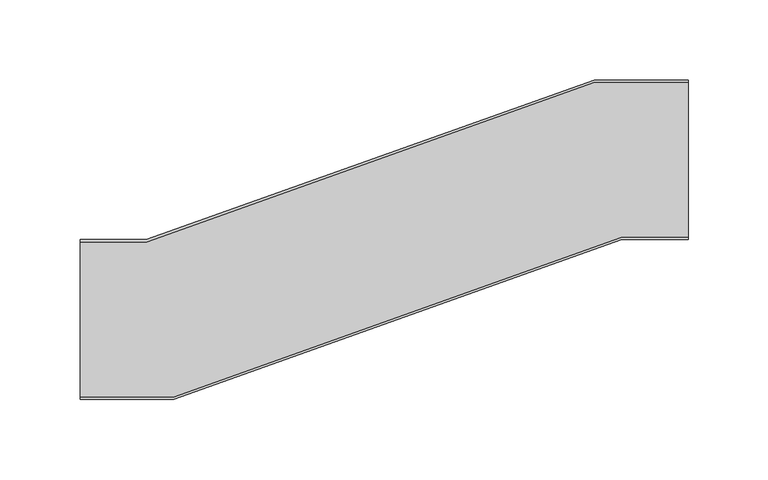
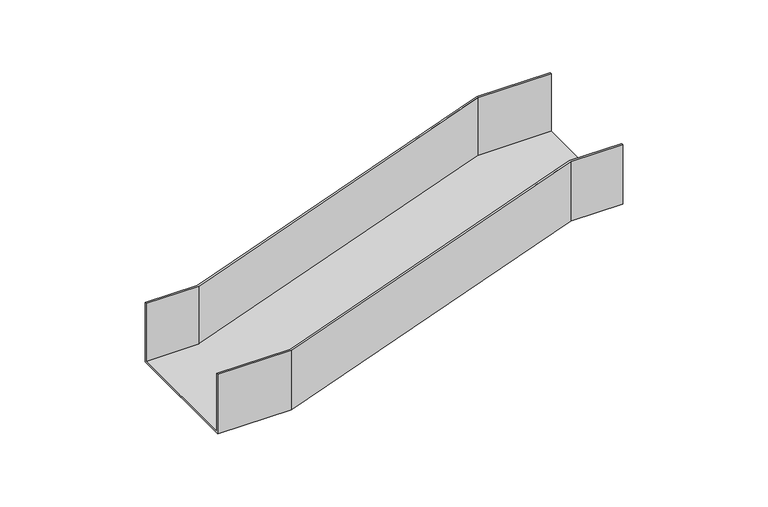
"""IFC4 building model written with IfcOpenShell, lengths in millimetres: cable carrier fitting geometry, BAKS_Bypass_horizontal_left_OPZL : OPZLPH50."""

from ifc_helpers import new_model, si_unit, origin, place, context, project, spatial, faceted_brep, source, transform, mapped, element, save


def cable_carrier_fitting_3d14474d(model_context):
    return source(origin(), model_context, "Body", "Brep", [
        faceted_brep([(-190.0, -1.5, 1.5), (-190.0, -1.5, 50.0), (-190.0, 0.0, 50.0), (-190.0, 0.0, 0.0), (-190.0, -100.0, 0.0), (-190.0, -100.0, 50.0), (-190.0, -98.5, 50.0), (-190.0, -98.5, 1.5), (-148.4008668, -1.5, 1.5), (-148.4008668, -1.5, 50.0), (131.5991332, 98.5, 50.0), (190.0, 98.5, 50.0), (190.0, 100.0, 50.0), (131.3393125, 100.0, 50.0), (-148.6606875, 0.0, 50.0), (-148.6606875, 0.0, 0.0), (131.3393125, 100.0, 0.0), (190.0, 100.0, 0.0), (190.0, 0.0, 0.0), (148.6606875, 0.0, 0.0), (-131.3393125, -100.0, 0.0), (-131.3393125, -100.0, 50.0), (148.6606875, 0.0, 50.0), (190.0, 0.0, 50.0), (190.0, 1.5, 50.0), (148.4008668, 1.5, 50.0), (-131.5991332, -98.5, 50.0), (-131.5991332, -98.5, 1.5), (148.4008668, 1.5, 1.5), (190.0, 1.5, 1.5), (190.0, 98.5, 1.5), (131.5991332, 98.5, 1.5)], [[[0, 1, 2, 3, 4, 5, 6, 7]], [[1, 0, 8, 9]], [[2, 1, 9, 10, 11, 12, 13, 14]], [[3, 2, 14, 15]], [[4, 3, 15, 16, 17, 18, 19, 20]], [[5, 4, 20, 21]], [[6, 5, 21, 22, 23, 24, 25, 26]], [[7, 6, 26, 27]], [[0, 7, 27, 28, 29, 30, 31, 8]], [[9, 8, 31, 10]], [[15, 14, 13, 16]], [[21, 20, 19, 22]], [[27, 26, 25, 28]], [[30, 29, 24, 23, 18, 17, 12, 11]], [[10, 31, 30, 11]], [[16, 13, 12, 17]], [[22, 19, 18, 23]], [[28, 25, 24, 29]]]),
    ])


if __name__ == "__main__":
    model = new_model("IFC4")
    model_context = context("Model", 3, world=origin())
    ifc_project = project(units=[si_unit("LENGTHUNIT", "METRE", prefix="MILLI")], contexts=[model_context])
    site = spatial("IfcSite", under=ifc_project)
    building = spatial("IfcBuilding", under=site)
    placement = place(None, origin())
    cable_carrier_fitting_shape = cable_carrier_fitting_3d14474d(model_context)
    element("IfcCableCarrierFitting", 1, ObjectType="BAKS_Bypass_horizontal_left_OPZL : OPZLPH50", at=placement, inside=building, context=model_context, shape_type="MappedRepresentation", body=[
        mapped(cable_carrier_fitting_shape, transform((0.0, 0.0, 0.0), x_axis=(1.0, 0.0, 0.0), y_axis=(0.0, 1.0, 0.0), z_axis=(0.0, 0.0, 1.0))),
    ])
    save(model, "model.ifc")
